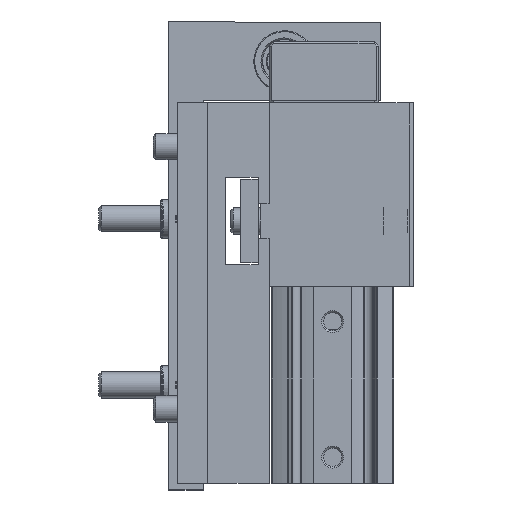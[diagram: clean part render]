
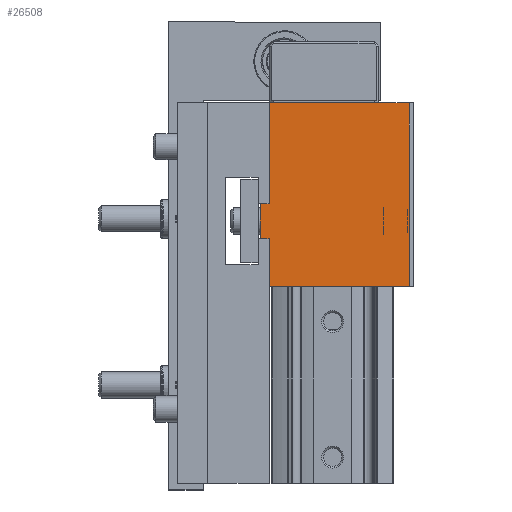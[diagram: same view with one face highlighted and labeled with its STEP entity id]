
A CAD part, left-side view. The second image highlights one B-rep face of the part: STEP entity #26508.
In plain terms, the highlighted planar face has unit normal (-1, 0, 0).
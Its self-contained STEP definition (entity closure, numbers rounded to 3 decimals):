
#22345=CARTESIAN_POINT('',(-20.,-16.5,-21.0));
#22346=VERTEX_POINT('',#22345);
#22353=CARTESIAN_POINT('',(-20.,15.5,-21.0));
#22354=VERTEX_POINT('',#22353);
#22355=CARTESIAN_POINT('',(-20.,-16.5,-21.0));
#22356=DIRECTION('',(0.0,1.0,0.0));
#22357=VECTOR('',#22356,32.);
#22358=LINE('',#22355,#22357);
#22359=EDGE_CURVE('',#22346,#22354,#22358,.T.);
#26416=CARTESIAN_POINT('',(-20.,15.5,21.0));
#26417=VERTEX_POINT('',#26416);
#26424=CARTESIAN_POINT('',(-20.,-16.5,21.0));
#26425=VERTEX_POINT('',#26424);
#26426=CARTESIAN_POINT('',(-20.,-16.5,21.0));
#26427=DIRECTION('',(0.0,1.0,0.0));
#26428=VECTOR('',#26427,32.);
#26429=LINE('',#26426,#26428);
#26430=EDGE_CURVE('',#26425,#26417,#26429,.T.);
#26448=CARTESIAN_POINT('',(-20.,-16.5,21.0));
#26449=DIRECTION('',(0.0,0.0,-1.0));
#26450=VECTOR('',#26449,42.0);
#26451=LINE('',#26448,#26450);
#26452=EDGE_CURVE('',#26425,#22346,#26451,.T.);
#26460=CARTESIAN_POINT('',(-20.,-17.5,-21.0));
#26461=DIRECTION('',(-1.0,0.0,0.0));
#26462=DIRECTION('',(0.0,0.0,1.0));
#26463=AXIS2_PLACEMENT_3D('',#26460,#26461,#26462);
#26464=PLANE('',#26463);
#26465=ORIENTED_EDGE('',*,*,#26452,.F.);
#26466=ORIENTED_EDGE('',*,*,#26430,.T.);
#26467=CARTESIAN_POINT('',(-20.0,15.5,-2.));
#26468=VERTEX_POINT('',#26467);
#26469=CARTESIAN_POINT('',(-20.,15.5,21.0));
#26470=DIRECTION('',(0.0,0.0,-1.0));
#26471=VECTOR('',#26470,23.0);
#26472=LINE('',#26469,#26471);
#26473=EDGE_CURVE('',#26417,#26468,#26472,.T.);
#26474=ORIENTED_EDGE('',*,*,#26473,.T.);
#26475=CARTESIAN_POINT('',(-20.0,17.5,-2.));
#26476=VERTEX_POINT('',#26475);
#26477=CARTESIAN_POINT('',(-20.0,15.5,-2.));
#26478=DIRECTION('',(0.0,1.0,0.0));
#26479=VECTOR('',#26478,2.);
#26480=LINE('',#26477,#26479);
#26481=EDGE_CURVE('',#26468,#26476,#26480,.T.);
#26482=ORIENTED_EDGE('',*,*,#26481,.T.);
#26483=CARTESIAN_POINT('',(-20.,17.5,-10.));
#26484=VERTEX_POINT('',#26483);
#26485=CARTESIAN_POINT('',(-20.,17.5,-10.));
#26486=DIRECTION('',(0.0,0.0,1.0));
#26487=VECTOR('',#26486,8.);
#26488=LINE('',#26485,#26487);
#26489=EDGE_CURVE('',#26484,#26476,#26488,.T.);
#26490=ORIENTED_EDGE('',*,*,#26489,.F.);
#26491=CARTESIAN_POINT('',(-20.,15.5,-10.));
#26492=VERTEX_POINT('',#26491);
#26493=CARTESIAN_POINT('',(-20.,17.5,-10.));
#26494=DIRECTION('',(0.0,-1.0,0.0));
#26495=VECTOR('',#26494,2.);
#26496=LINE('',#26493,#26495);
#26497=EDGE_CURVE('',#26484,#26492,#26496,.T.);
#26498=ORIENTED_EDGE('',*,*,#26497,.T.);
#26499=CARTESIAN_POINT('',(-20.,15.5,-10.));
#26500=DIRECTION('',(0.0,0.0,-1.0));
#26501=VECTOR('',#26500,11.);
#26502=LINE('',#26499,#26501);
#26503=EDGE_CURVE('',#26492,#22354,#26502,.T.);
#26504=ORIENTED_EDGE('',*,*,#26503,.T.);
#26505=ORIENTED_EDGE('',*,*,#22359,.F.);
#26506=EDGE_LOOP('',(#26465,#26466,#26474,#26482,#26490,#26498,#26504,#26505));
#26507=FACE_OUTER_BOUND('',#26506,.T.);
#26508=ADVANCED_FACE('',(#26507),#26464,.T.);
